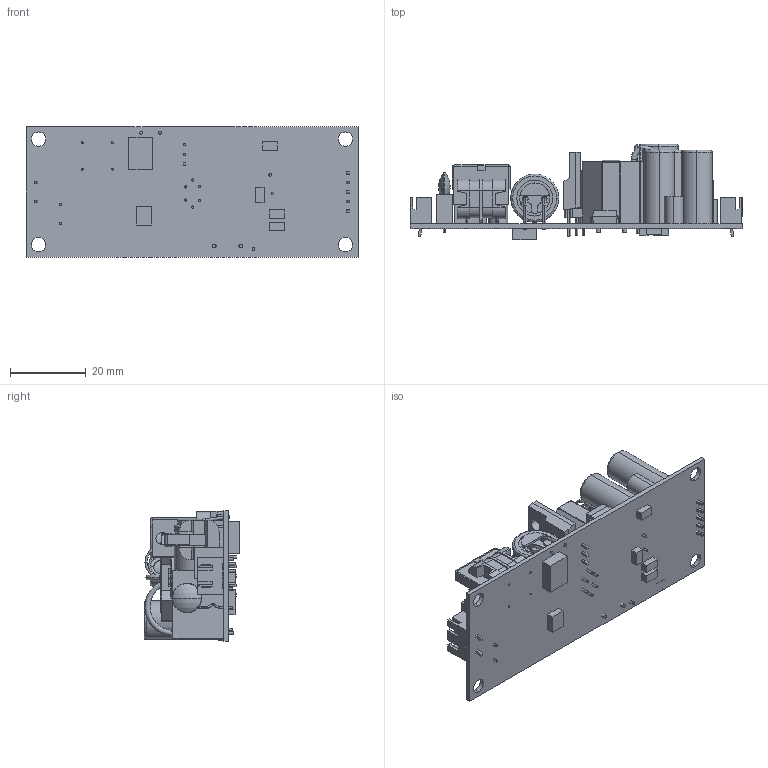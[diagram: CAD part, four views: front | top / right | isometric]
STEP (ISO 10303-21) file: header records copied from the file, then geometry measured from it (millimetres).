
FILE_DESCRIPTION (( 'STEP AP214' ), '1' );
FILE_NAME ('ECL30UD03 UT02 UT03-T SPEC-1050929.STEP', '2016-09-29T04:08:47', ( 'cincon' ), ( '' ), 'SwSTEP 2.0', 'SolidWorks 2008', '' );
FILE_SCHEMA (( 'AUTOMOTIVE_DESIGN' ));
Length unit declared in the file: millimetre
Products named in the file (12): ECL30UD03 UT02 UT03-T SPEC-990914_預設; 電晶體10mm; D12.7x29.5mm電容; TR30R GP變電器; ECL30-UT02變壓器; CY(10X16)_預設; 陶瓷電容d8_預設; OptoCoupler TLP521-2-A; VR; 5PIN插座(ECL30 DUAL-T); 3PIN插座(ECL25USXX-T); ECL30UD03 UT02 UT03-T SPEC-1050929
Assembly tree (11 placements, depth 2):
  ECL30UD03 UT02 UT03-T SPEC-1050929
    ECL30UD03 UT02 UT03-T SPEC-990914_預設
    電晶體10mm
    OptoCoupler TLP521-2-A
    VR
    ECL30-UT02變壓器
    3PIN插座(ECL25USXX-T)
    CY(10X16)_預設
    陶瓷電容d8_預設
    D12.7x29.5mm電容
    5PIN插座(ECL30 DUAL-T)
    TR30R GP變電器
Bounding box: 87.9 x 25.3 x 34.6 mm (x, y, z)
Volume: 23805.6 mm3; surface area: 20345 mm2
Topology: 13 solids, 13 shells, 1063 faces, 2789 edges, 1808 vertices
Faces by surface type: plane 740, cylinder 239, torus 68, bspline 8, sphere 4, cone 4
Entity records: 36571 total; most frequent: CARTESIAN_POINT 6696, ORIENTED_EDGE 5578, DIRECTION 5537, EDGE_CURVE 2789, VECTOR 2103, LINE 2103, VERTEX_POINT 1808, AXIS2_PLACEMENT_3D 1717
